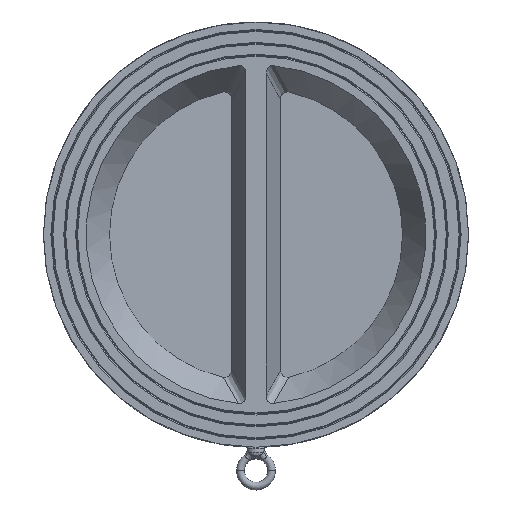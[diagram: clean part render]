
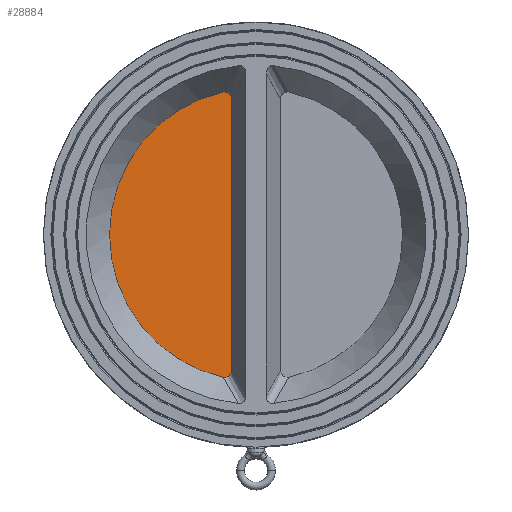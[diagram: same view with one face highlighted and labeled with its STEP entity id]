
A CAD part, top view. The second image highlights one B-rep face of the part: STEP entity #28884.
In plain terms, the highlighted planar face has unit normal (0.022, 0, 1) as drawn and (0, -1, 0) by its records, which use the part's own axes.
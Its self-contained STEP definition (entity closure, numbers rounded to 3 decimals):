
#27446=DIRECTION('',(-1.,0.,0.));
#27447=VECTOR('',#27446,318.396);
#27448=CARTESIAN_POINT('',(159.198,3.,-16.));
#27449=LINE('',#27448,#27447);
#27458=CARTESIAN_POINT('',(0.,3.,0.));
#27459=DIRECTION('',(0.,1.,0.));
#27460=DIRECTION('',(0.995,0.,-0.1));
#27461=AXIS2_PLACEMENT_3D('',#27458,#27459,#27460);
#28168=CARTESIAN_POINT('',(159.198,3.,-16.));
#28169=CARTESIAN_POINT('',(-159.198,3.,-16.));
#28170=VERTEX_POINT('',#28168);
#28171=VERTEX_POINT('',#28169);
#28874=CARTESIAN_POINT('',(0.,3.,0.));
#28875=DIRECTION('',(0.,1.,0.));
#28876=DIRECTION('',(-1.,0.,0.));
#28877=AXIS2_PLACEMENT_3D('',#28874,#28875,#28876);
#28878=PLANE('',#28877);
#28879=ORIENTED_EDGE('',*,*,#28864,.F.);
#28881=ORIENTED_EDGE('',*,*,#28880,.T.);
#28882=EDGE_LOOP('',(#28879,#28881));
#28883=FACE_OUTER_BOUND('',#28882,.F.);
#27462=CIRCLE('',#27461,160.);
#28864=EDGE_CURVE('',#28170,#28171,#27449,.T.);
#28880=EDGE_CURVE('',#28170,#28171,#27462,.T.);
#28884=ADVANCED_FACE('',(#28883),#28878,.F.);
